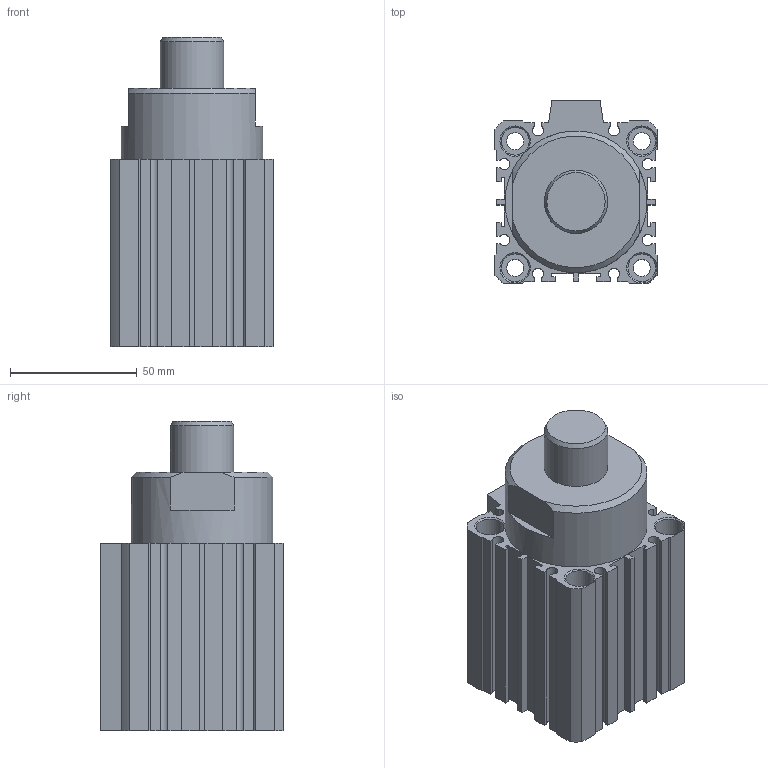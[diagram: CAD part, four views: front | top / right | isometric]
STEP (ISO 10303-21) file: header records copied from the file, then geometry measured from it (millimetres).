
FILE_DESCRIPTION((''),'2;1');
FILE_NAME('I:\3D電子目錄\氣缸\STB\STB\STB50\STB50x20.stp','2007-09-19T13:59:28',('Administrator'),(''),'Autodesk Inventor 11','Autodesk Inventor 11','');
FILE_SCHEMA(('AUTOMOTIVE_DESIGN { 1 0 10303 214 1 1 1 1 }'));
Length unit declared in the file: millimetre
Products named in the file (1): STB50
Bounding box: 64 x 72 x 122 mm (x, y, z)
Volume: 336880.5 mm3; surface area: 53287.7 mm2
Topology: 1 solids, 1 shells, 163 faces, 425 edges, 276 vertices
Faces by surface type: plane 110, cylinder 32, cone 17, bspline 3, torus 1
Full cylindrical faces by diameter (mm): 2.7 x2, 6.8 x4, 11 x8, 25 x1, 37 x1, 52 x2, 55 x1, 56 x1
Entity records: 4773 total; most frequent: CARTESIAN_POINT 891, DIRECTION 786, ORIENTED_EDGE 754, EDGE_CURVE 377, VECTOR 280, LINE 280, VERTEX_POINT 266, AXIS2_PLACEMENT_3D 253
